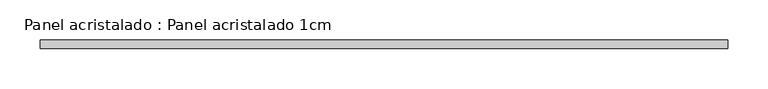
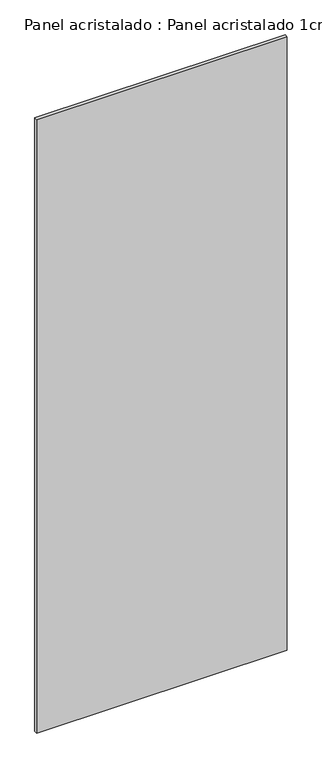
"""IFC4 building model written with IfcOpenShell, lengths in millimetres: plate geometry, Panel acristalado : Panel acristalado 1cm."""

from ifc_helpers import new_model, si_unit, origin, origin_with_axes, place, context, project, spatial, polyline, outline, extrude, source, transform, mapped, element, save


def panel_acristalado_panel_acristalado_1cm_8548f812(model_context):
    return source(origin(), model_context, "Body", "SweptSolid", [
        extrude(outline(polyline([(425.0, 20.0), (-425.0, 20.0), (-425.0, 30.0), (425.0, 30.0), (425.0, 20.0)])), origin_with_axes(), (0.0, 0.0, 1.0), 2200.0),
    ])


if __name__ == "__main__":
    model = new_model("IFC4")
    model_context = context("Model", 3, world=origin())
    ifc_project = project(units=[si_unit("LENGTHUNIT", "METRE", prefix="MILLI")], contexts=[model_context])
    site = spatial("IfcSite", under=ifc_project)
    building = spatial("IfcBuilding", under=site)
    placement = place(None, origin())
    panel_acristalado_panel_acristalado_1cm_shape = panel_acristalado_panel_acristalado_1cm_8548f812(model_context)
    element("IfcPlate", 1, ObjectType="Panel acristalado : Panel acristalado 1cm", at=placement, inside=building, context=model_context, shape_type="MappedRepresentation", body=[
        mapped(panel_acristalado_panel_acristalado_1cm_shape, transform((0.0, 0.0, 0.0), x_axis=(1.0, 0.0, 0.0), y_axis=(0.0, 1.0, 0.0), z_axis=(0.0, 0.0, 1.0))),
    ])
    save(model, "model.ifc")
